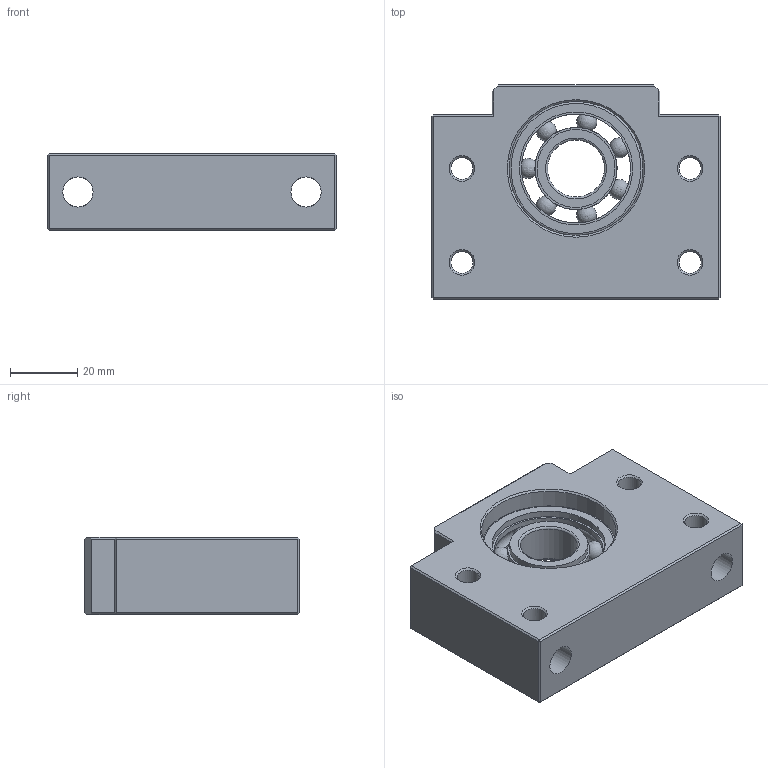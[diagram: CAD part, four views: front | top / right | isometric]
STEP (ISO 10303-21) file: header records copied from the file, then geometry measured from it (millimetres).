
FILE_DESCRIPTION(/* description */ (''),/* implementation_level */ '2;1');
FILE_NAME(/* name */ 'D:\owncloud\Kamp und Kötter\Artikel\_CAD-Dateien\Lagerbloecke\BKBF17\Steh-Loslager KUS25.stp',/* time_stamp */ '2019-02-17T18:34:30+01:00',/* author */ ('Buskamp'),/* organization */ (''),/* preprocessor_version */ 'ST-DEVELOPER v17',/* originating_system */ 'Autodesk Inventor 2019',/* authorisation */ '');
FILE_SCHEMA (('AUTOMOTIVE_DESIGN { 1 0 10303 214 3 1 1 }'));
Length unit declared in the file: millimetre
Products named in the file (3): Loslager; LoslagerBlock; Bearing 6203-2Z GB/T 276-94
Assembly tree (2 placements, depth 2):
  Loslager
    LoslagerBlock
    Bearing 6203-2Z GB/T 276-94
Bounding box: 86 x 64 x 23 mm (x, y, z)
Volume: 87286.4 mm3; surface area: 27494.2 mm2
Topology: 10 solids, 10 shells, 110 faces, 282 edges, 184 vertices
Faces by surface type: plane 50, cylinder 23, torus 18, cone 12, sphere 7
Full cylindrical faces by diameter (mm): 6.6 x8, 9 x2, 14 x2, 17 x1, 23.273 x2, 24.498 x2, 32.502 x2, 33.727 x2, 40 x2
Entity records: 3909 total; most frequent: CARTESIAN_POINT 877, DIRECTION 649, ORIENTED_EDGE 564, EDGE_CURVE 282, AXIS2_PLACEMENT_3D 264, VERTEX_POINT 212, EDGE_LOOP 156, CIRCLE 149
